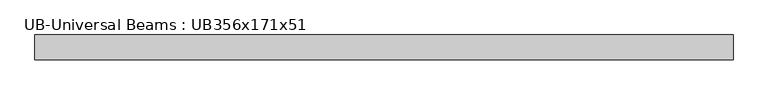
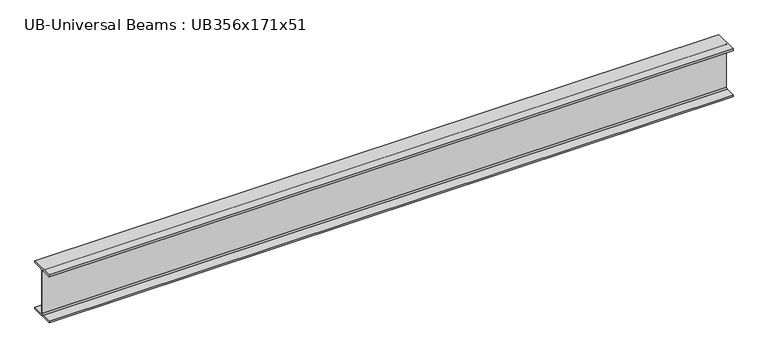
"""IFC4 building model written with IfcOpenShell, lengths in millimetres: beam geometry, UB-Universal Beams : UB356x171x51."""

from ifc_helpers import new_model, si_unit, point, frame, frame_2d, origin, place, context, project, spatial, polyline, circle_curve, trimmed, segment, composite_curve, outline, extrude, source, transform, mapped, element, save


def ub_universal_beams_ub356x171x51_834c6e34(model_context):
    return source(origin(), model_context, "Body", "SweptSolid", [
        extrude(outline(composite_curve([segment(polyline([(85.75, -166.0), (85.75, -177.5), (-85.75, -177.5), (-85.75, -166.0), (-13.9, -166.0)]), True, "CONTINUOUS"), segment(trimmed(circle_curve(frame_2d((-13.9, -155.8)), 10.2), [point((-13.9, -166.0))], [point((-3.7, -155.8))], True, "CARTESIAN"), True, "CONTINUOUS"), segment(polyline([(-3.7, -155.8), (-3.7, 155.8)]), True, "CONTINUOUS"), segment(trimmed(circle_curve(frame_2d((-13.9, 155.8)), 10.2), [point((-3.7, 155.8))], [point((-13.9, 166.0))], True, "CARTESIAN"), True, "CONTINUOUS"), segment(polyline([(-13.9, 166.0), (-85.75, 166.0), (-85.75, 177.5), (85.75, 177.5), (85.75, 166.0), (13.9, 166.0)]), True, "CONTINUOUS"), segment(trimmed(circle_curve(frame_2d((13.9, 155.8)), 10.2), [point((13.9, 166.0))], [point((3.7, 155.8))], True, "CARTESIAN"), True, "CONTINUOUS"), segment(polyline([(3.7, 155.8), (3.7, -155.8)]), True, "CONTINUOUS"), segment(trimmed(circle_curve(frame_2d((13.9, -155.8)), 10.2), [point((3.7, -155.8))], [point((13.9, -166.0))], True, "CARTESIAN"), True, "CONTINUOUS"), segment(polyline([(13.9, -166.0), (85.75, -166.0)]), True, "CONTINUOUS")], self_intersect=False)), frame((-2371.3, 0.0, 0.0), z_axis=(1.0, 0.0, 0.0), x_axis=(0.0, 1.0, 0.0)), (0.0, 0.0, 1.0), 4789.5),
    ])


if __name__ == "__main__":
    model = new_model("IFC4")
    model_context = context("Model", 3, world=origin())
    ifc_project = project(units=[si_unit("LENGTHUNIT", "METRE", prefix="MILLI")], contexts=[model_context])
    site = spatial("IfcSite", under=ifc_project)
    building = spatial("IfcBuilding", under=site)
    placement = place(None, origin())
    ub_universal_beams_ub356x171x51_shape = ub_universal_beams_ub356x171x51_834c6e34(model_context)
    element("IfcBeam", 1, ObjectType="UB-Universal Beams : UB356x171x51", at=placement, inside=building, context=model_context, shape_type="MappedRepresentation", body=[
        mapped(ub_universal_beams_ub356x171x51_shape, transform((0.0, 0.0, 0.0), x_axis=(1.0, 0.0, 0.0), y_axis=(0.0, 1.0, 0.0), z_axis=(0.0, 0.0, 1.0))),
    ])
    save(model, "model.ifc")
